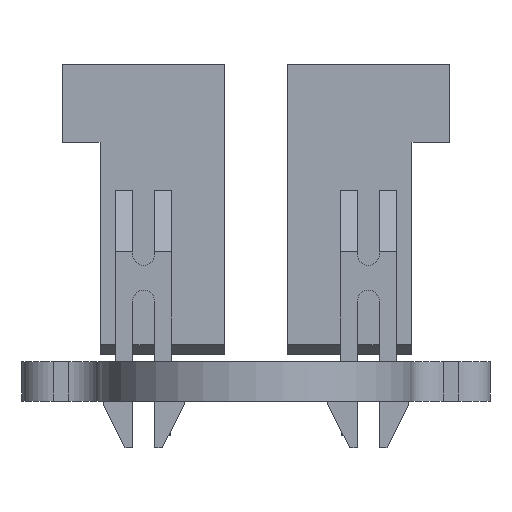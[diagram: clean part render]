
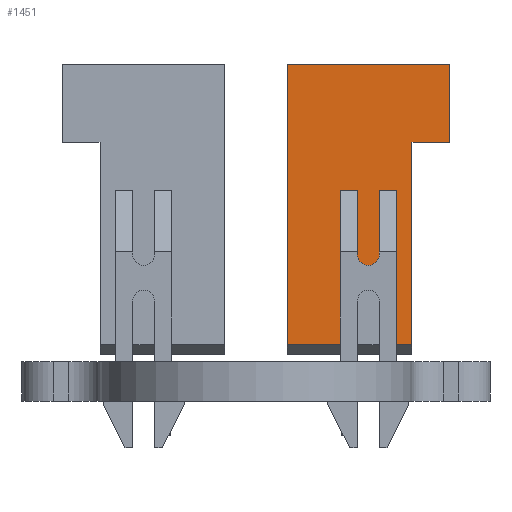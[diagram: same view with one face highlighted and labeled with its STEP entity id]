
A CAD part, front view. The second image highlights one B-rep face of the part: STEP entity #1451.
In plain terms, the highlighted planar face has unit normal (0, -1, 0) as drawn and (1, 0, 0) by its records, which use the part's own axes.
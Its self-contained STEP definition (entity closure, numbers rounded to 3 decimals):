
#187 = VERTEX_POINT('',#188);
#188 = CARTESIAN_POINT('',(3.683,1.905,-5.715));
#196 = EDGE_CURVE('',#197,#187,#199,.T.);
#197 = VERTEX_POINT('',#198);
#198 = CARTESIAN_POINT('',(3.683,2.54,-5.715));
#199 = LINE('',#200,#201);
#200 = CARTESIAN_POINT('',(3.683,2.54,-5.715));
#201 = VECTOR('',#202,1.);
#202 = DIRECTION('',(0.,-1.,0.));
#221 = VERTEX_POINT('',#222);
#222 = CARTESIAN_POINT('',(3.683,-2.54,-5.715));
#228 = EDGE_CURVE('',#229,#221,#231,.T.);
#229 = VERTEX_POINT('',#230);
#230 = CARTESIAN_POINT('',(3.683,-0.381,-5.715));
#231 = LINE('',#232,#233);
#232 = CARTESIAN_POINT('',(3.683,-0.381,-5.715));
#233 = VECTOR('',#234,1.);
#234 = DIRECTION('',(0.,-1.,0.));
#441 = EDGE_CURVE('',#197,#442,#444,.T.);
#442 = VERTEX_POINT('',#443);
#443 = CARTESIAN_POINT('',(3.683,2.54,2.54));
#444 = LINE('',#445,#446);
#445 = CARTESIAN_POINT('',(3.683,2.54,-5.715));
#446 = VECTOR('',#447,1.);
#447 = DIRECTION('',(0.,0.,1.));
#609 = VERTEX_POINT('',#610);
#610 = CARTESIAN_POINT('',(3.683,-2.54,5.715));
#616 = EDGE_CURVE('',#221,#609,#617,.T.);
#617 = LINE('',#618,#619);
#618 = CARTESIAN_POINT('',(3.683,-2.54,-5.715));
#619 = VECTOR('',#620,1.);
#620 = DIRECTION('',(0.,0.,1.));
#1451 = ADVANCED_FACE('',(#1452),#1535,.T.);
#1452 = FACE_BOUND('',#1453,.F.);
#1453 = EDGE_LOOP('',(#1454,#1464,#1472,#1481,#1489,#1497,#1503,#1504,
    #1505,#1513,#1521,#1527,#1528,#1529));
#1454 = ORIENTED_EDGE('',*,*,#1455,.T.);
#1455 = EDGE_CURVE('',#1456,#1458,#1460,.T.);
#1456 = VERTEX_POINT('',#1457);
#1457 = CARTESIAN_POINT('',(3.683,1.905,0.572));
#1458 = VERTEX_POINT('',#1459);
#1459 = CARTESIAN_POINT('',(3.683,1.207,0.572));
#1460 = LINE('',#1461,#1462);
#1461 = CARTESIAN_POINT('',(3.683,1.905,0.572));
#1462 = VECTOR('',#1463,1.);
#1463 = DIRECTION('',(0.,-1.,0.));
#1464 = ORIENTED_EDGE('',*,*,#1465,.F.);
#1465 = EDGE_CURVE('',#1466,#1458,#1468,.T.);
#1466 = VERTEX_POINT('',#1467);
#1467 = CARTESIAN_POINT('',(3.683,1.207,-2.032));
#1468 = LINE('',#1469,#1470);
#1469 = CARTESIAN_POINT('',(3.683,1.207,-2.032));
#1470 = VECTOR('',#1471,1.);
#1471 = DIRECTION('',(0.,0.,1.));
#1472 = ORIENTED_EDGE('',*,*,#1473,.F.);
#1473 = EDGE_CURVE('',#1474,#1466,#1476,.T.);
#1474 = VERTEX_POINT('',#1475);
#1475 = CARTESIAN_POINT('',(3.683,0.318,-2.032));
#1476 = CIRCLE('',#1477,0.445);
#1477 = AXIS2_PLACEMENT_3D('',#1478,#1479,#1480);
#1478 = CARTESIAN_POINT('',(3.683,0.762,-2.032));
#1479 = DIRECTION('',(1.,0.,0.));
#1480 = DIRECTION('',(0.,-1.,0.));
#1481 = ORIENTED_EDGE('',*,*,#1482,.F.);
#1482 = EDGE_CURVE('',#1483,#1474,#1485,.T.);
#1483 = VERTEX_POINT('',#1484);
#1484 = CARTESIAN_POINT('',(3.683,0.318,0.572));
#1485 = LINE('',#1486,#1487);
#1486 = CARTESIAN_POINT('',(3.683,0.318,0.572));
#1487 = VECTOR('',#1488,1.);
#1488 = DIRECTION('',(0.,0.,-1.));
#1489 = ORIENTED_EDGE('',*,*,#1490,.T.);
#1490 = EDGE_CURVE('',#1483,#1491,#1493,.T.);
#1491 = VERTEX_POINT('',#1492);
#1492 = CARTESIAN_POINT('',(3.683,-0.381,0.572));
#1493 = LINE('',#1494,#1495);
#1494 = CARTESIAN_POINT('',(3.683,0.318,0.572));
#1495 = VECTOR('',#1496,1.);
#1496 = DIRECTION('',(0.,-1.,0.));
#1497 = ORIENTED_EDGE('',*,*,#1498,.F.);
#1498 = EDGE_CURVE('',#229,#1491,#1499,.T.);
#1499 = LINE('',#1500,#1501);
#1500 = CARTESIAN_POINT('',(3.683,-0.381,-5.715));
#1501 = VECTOR('',#1502,1.);
#1502 = DIRECTION('',(0.,0.,1.));
#1503 = ORIENTED_EDGE('',*,*,#228,.T.);
#1504 = ORIENTED_EDGE('',*,*,#616,.T.);
#1505 = ORIENTED_EDGE('',*,*,#1506,.T.);
#1506 = EDGE_CURVE('',#609,#1507,#1509,.T.);
#1507 = VERTEX_POINT('',#1508);
#1508 = CARTESIAN_POINT('',(3.683,4.064,5.715));
#1509 = LINE('',#1510,#1511);
#1510 = CARTESIAN_POINT('',(3.683,-2.54,5.715));
#1511 = VECTOR('',#1512,1.);
#1512 = DIRECTION('',(0.,1.,0.));
#1513 = ORIENTED_EDGE('',*,*,#1514,.F.);
#1514 = EDGE_CURVE('',#1515,#1507,#1517,.T.);
#1515 = VERTEX_POINT('',#1516);
#1516 = CARTESIAN_POINT('',(3.683,4.064,2.54));
#1517 = LINE('',#1518,#1519);
#1518 = CARTESIAN_POINT('',(3.683,4.064,2.54));
#1519 = VECTOR('',#1520,1.);
#1520 = DIRECTION('',(0.,0.,1.));
#1521 = ORIENTED_EDGE('',*,*,#1522,.T.);
#1522 = EDGE_CURVE('',#1515,#442,#1523,.T.);
#1523 = LINE('',#1524,#1525);
#1524 = CARTESIAN_POINT('',(3.683,4.064,2.54));
#1525 = VECTOR('',#1526,1.);
#1526 = DIRECTION('',(0.,-1.,0.));
#1527 = ORIENTED_EDGE('',*,*,#441,.F.);
#1528 = ORIENTED_EDGE('',*,*,#196,.T.);
#1529 = ORIENTED_EDGE('',*,*,#1530,.F.);
#1530 = EDGE_CURVE('',#1456,#187,#1531,.T.);
#1531 = LINE('',#1532,#1533);
#1532 = CARTESIAN_POINT('',(3.683,1.905,0.572));
#1533 = VECTOR('',#1534,1.);
#1534 = DIRECTION('',(0.,0.,-1.));
#1535 = PLANE('',#1536);
#1536 = AXIS2_PLACEMENT_3D('',#1537,#1538,#1539);
#1537 = CARTESIAN_POINT('',(3.683,-2.54,-5.715));
#1538 = DIRECTION('',(1.,0.,0.));
#1539 = DIRECTION('',(-0.,1.,0.));
